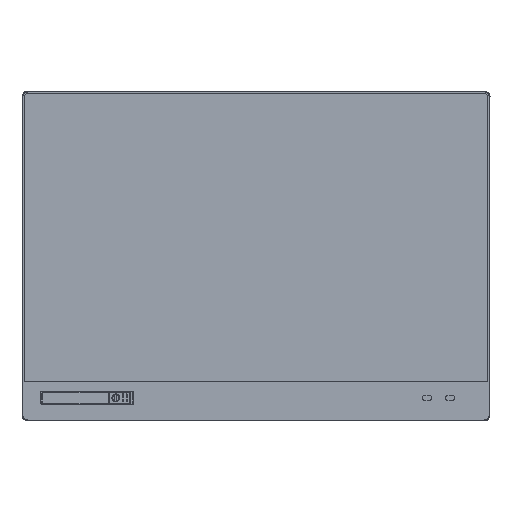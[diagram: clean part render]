
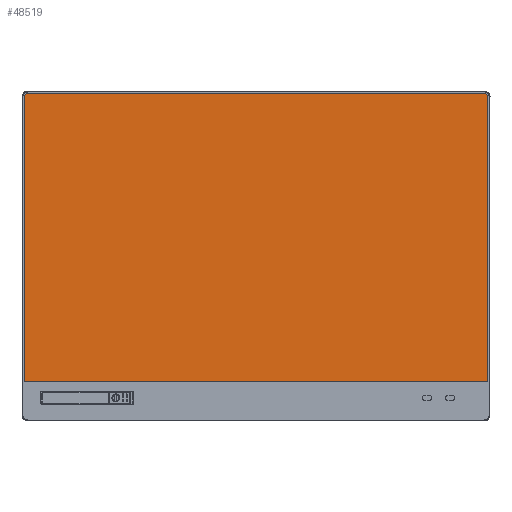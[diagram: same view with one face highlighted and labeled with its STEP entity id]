
A CAD part, top view. The second image highlights one B-rep face of the part: STEP entity #48519.
In plain terms, the highlighted planar face has unit normal (0, 0, 1).
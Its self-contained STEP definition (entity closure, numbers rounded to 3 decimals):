
#2782=DIRECTION('',(-1.,0.,0.));
#2783=VECTOR('',#2782,401.);
#2784=CARTESIAN_POINT('',(200.5,-109.15,2.25));
#2785=LINE('',#2784,#2783);
#2786=CARTESIAN_POINT('',(-200.5,-108.45,2.25));
#2787=DIRECTION('',(0.,0.,-1.));
#2788=DIRECTION('',(0.,-1.,0.));
#2789=AXIS2_PLACEMENT_3D('',#2786,#2787,#2788);
#2791=DIRECTION('',(0.,1.,0.));
#2792=VECTOR('',#2791,246.15);
#2793=CARTESIAN_POINT('',(-201.2,-108.45,2.25));
#2794=LINE('',#2793,#2792);
#2795=CARTESIAN_POINT('',(-197.7,137.7,2.25));
#2796=DIRECTION('',(0.,0.,-1.));
#2797=DIRECTION('',(-1.,0.,0.));
#2798=AXIS2_PLACEMENT_3D('',#2795,#2796,#2797);
#2800=DIRECTION('',(1.,0.,0.));
#2801=VECTOR('',#2800,395.4);
#2802=CARTESIAN_POINT('',(-197.7,141.2,2.25));
#2803=LINE('',#2802,#2801);
#2804=CARTESIAN_POINT('',(197.7,137.7,2.25));
#2805=DIRECTION('',(0.,0.,-1.));
#2806=DIRECTION('',(0.,1.,0.));
#2807=AXIS2_PLACEMENT_3D('',#2804,#2805,#2806);
#2809=DIRECTION('',(0.,-1.,0.));
#2810=VECTOR('',#2809,246.15);
#2811=CARTESIAN_POINT('',(201.2,137.7,2.25));
#2812=LINE('',#2811,#2810);
#2813=CARTESIAN_POINT('',(200.5,-108.45,2.25));
#2814=DIRECTION('',(0.,0.,-1.));
#2815=DIRECTION('',(1.,0.,0.));
#2816=AXIS2_PLACEMENT_3D('',#2813,#2814,#2815);
#37711=CARTESIAN_POINT('',(-201.2,137.7,2.25));
#37712=VERTEX_POINT('',#37711);
#37713=CARTESIAN_POINT('',(-201.2,-108.45,2.25));
#37714=VERTEX_POINT('',#37713);
#37717=CARTESIAN_POINT('',(-197.7,141.2,2.25));
#37718=VERTEX_POINT('',#37717);
#37721=CARTESIAN_POINT('',(197.7,141.2,2.25));
#37722=VERTEX_POINT('',#37721);
#37725=CARTESIAN_POINT('',(201.2,137.7,2.25));
#37726=VERTEX_POINT('',#37725);
#37729=CARTESIAN_POINT('',(201.2,-108.45,2.25));
#37730=VERTEX_POINT('',#37729);
#37732=CARTESIAN_POINT('',(200.5,-109.15,2.25));
#37733=VERTEX_POINT('',#37732);
#37736=CARTESIAN_POINT('',(-200.5,-109.15,2.25));
#37737=VERTEX_POINT('',#37736);
#48504=CARTESIAN_POINT('',(0.,0.,2.25));
#48505=DIRECTION('',(0.,0.,1.));
#48506=DIRECTION('',(1.,0.,0.));
#48507=AXIS2_PLACEMENT_3D('',#48504,#48505,#48506);
#48508=PLANE('',#48507);
#48509=ORIENTED_EDGE('',*,*,#48472,.T.);
#48510=ORIENTED_EDGE('',*,*,#48486,.T.);
#48511=ORIENTED_EDGE('',*,*,#48303,.T.);
#48512=ORIENTED_EDGE('',*,*,#48319,.T.);
#48513=ORIENTED_EDGE('',*,*,#48360,.T.);
#48514=ORIENTED_EDGE('',*,*,#48375,.T.);
#48515=ORIENTED_EDGE('',*,*,#48416,.T.);
#48516=ORIENTED_EDGE('',*,*,#48431,.T.);
#48517=EDGE_LOOP('',(#48509,#48510,#48511,#48512,#48513,#48514,#48515,#48516));
#48518=FACE_OUTER_BOUND('',#48517,.F.);
#48519=ADVANCED_FACE('',(#48518),#48508,.T.);
#2790=CIRCLE('',#2789,0.7);
#2799=CIRCLE('',#2798,3.5);
#2808=CIRCLE('',#2807,3.5);
#2817=CIRCLE('',#2816,0.7);
#48303=EDGE_CURVE('',#37714,#37712,#2794,.T.);
#48319=EDGE_CURVE('',#37712,#37718,#2799,.T.);
#48360=EDGE_CURVE('',#37718,#37722,#2803,.T.);
#48375=EDGE_CURVE('',#37722,#37726,#2808,.T.);
#48416=EDGE_CURVE('',#37726,#37730,#2812,.T.);
#48431=EDGE_CURVE('',#37730,#37733,#2817,.T.);
#48472=EDGE_CURVE('',#37733,#37737,#2785,.T.);
#48486=EDGE_CURVE('',#37737,#37714,#2790,.T.);
